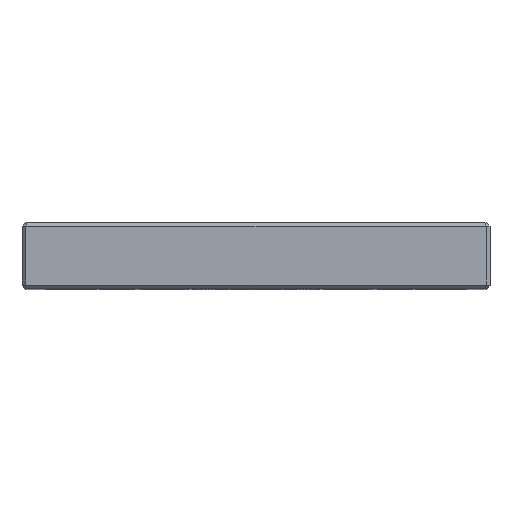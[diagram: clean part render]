
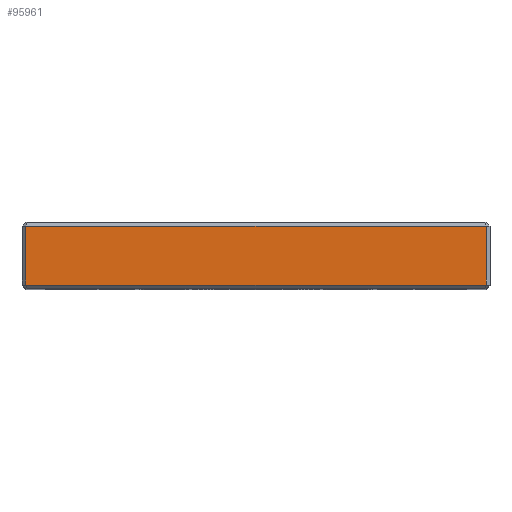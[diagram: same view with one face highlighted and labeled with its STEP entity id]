
A CAD part, top view. The second image highlights one B-rep face of the part: STEP entity #95961.
In plain terms, the highlighted planar face has unit normal (0, 0, 1).
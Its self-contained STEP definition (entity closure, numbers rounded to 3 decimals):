
#39105=DIRECTION('',(1.,0.,0.));
#39106=VECTOR('',#39105,62.5);
#39107=CARTESIAN_POINT('',(-31.25,8.5,31.75));
#39108=LINE('',#39107,#39106);
#39109=DIRECTION('',(0.,-1.,0.));
#39110=VECTOR('',#39109,8.);
#39111=CARTESIAN_POINT('',(31.25,8.5,31.75));
#39112=LINE('',#39111,#39110);
#39113=DIRECTION('',(-1.,0.,0.));
#39114=VECTOR('',#39113,62.5);
#39115=CARTESIAN_POINT('',(31.25,0.5,31.75));
#39116=LINE('',#39115,#39114);
#39117=DIRECTION('',(0.,-1.,0.));
#39118=VECTOR('',#39117,8.);
#39119=CARTESIAN_POINT('',(-31.25,8.5,31.75));
#39120=LINE('',#39119,#39118);
#45336=CARTESIAN_POINT('',(-31.25,8.5,31.75));
#45337=VERTEX_POINT('',#45336);
#45340=CARTESIAN_POINT('',(31.25,8.5,31.75));
#45341=VERTEX_POINT('',#45340);
#45360=CARTESIAN_POINT('',(-31.25,0.5,31.75));
#45362=VERTEX_POINT('',#45360);
#45386=CARTESIAN_POINT('',(31.25,0.5,31.75));
#45387=VERTEX_POINT('',#45386);
#95948=CARTESIAN_POINT('',(-31.75,0.,31.75));
#95949=DIRECTION('',(0.,0.,1.));
#95950=DIRECTION('',(1.,0.,0.));
#95951=AXIS2_PLACEMENT_3D('',#95948,#95949,#95950);
#95952=PLANE('',#95951);
#95953=ORIENTED_EDGE('',*,*,#95939,.T.);
#95955=ORIENTED_EDGE('',*,*,#95954,.T.);
#95957=ORIENTED_EDGE('',*,*,#95956,.T.);
#95958=ORIENTED_EDGE('',*,*,#95913,.F.);
#95959=EDGE_LOOP('',(#95953,#95955,#95957,#95958));
#95960=FACE_OUTER_BOUND('',#95959,.F.);
#95961=ADVANCED_FACE('',(#95960),#95952,.T.);
#95913=EDGE_CURVE('',#45337,#45362,#39120,.T.);
#95939=EDGE_CURVE('',#45337,#45341,#39108,.T.);
#95954=EDGE_CURVE('',#45341,#45387,#39112,.T.);
#95956=EDGE_CURVE('',#45387,#45362,#39116,.T.);
